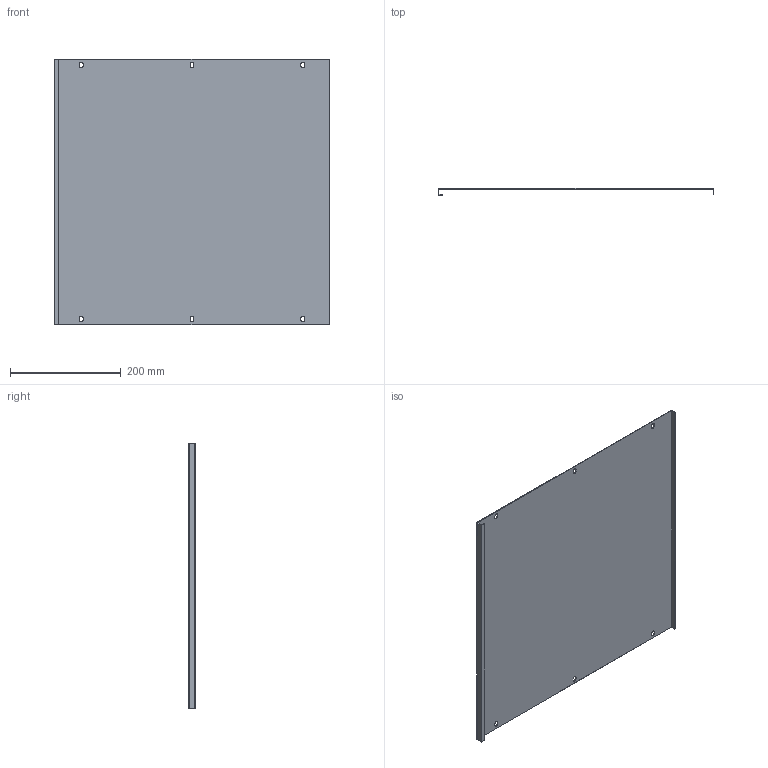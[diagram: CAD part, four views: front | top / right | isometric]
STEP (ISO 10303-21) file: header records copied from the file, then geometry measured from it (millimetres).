
FILE_DESCRIPTION (( 'STEP AP214' ), '1' );
FILE_NAME ('FO-00-PVS-050-060 Ïëàñòðîí ãëóõîé âíóòðåííèé 500õ600.STEP', '2025-08-27T08:43:42', ( '' ), ( '' ), 'SwSTEP 2.0', 'SolidWorks 2023', '' );
FILE_SCHEMA (( 'AUTOMOTIVE_DESIGN' ));
Length unit declared in the file: millimetre
Products named in the file (1): FO-00-PVS-050-060 Пластрон глухой внутренний 500х600
Bounding box: 498 x 12.5 x 479 mm (x, y, z)
Volume: 375958.6 mm3; surface area: 504539.1 mm2
Topology: 1 solids, 1 shells, 52 faces, 150 edges, 100 vertices
Faces by surface type: plane 34, cylinder 18
Entity records: 1757 total; most frequent: CARTESIAN_POINT 303, ORIENTED_EDGE 300, DIRECTION 292, EDGE_CURVE 150, LINE 114, VECTOR 114, VERTEX_POINT 100, AXIS2_PLACEMENT_3D 89
